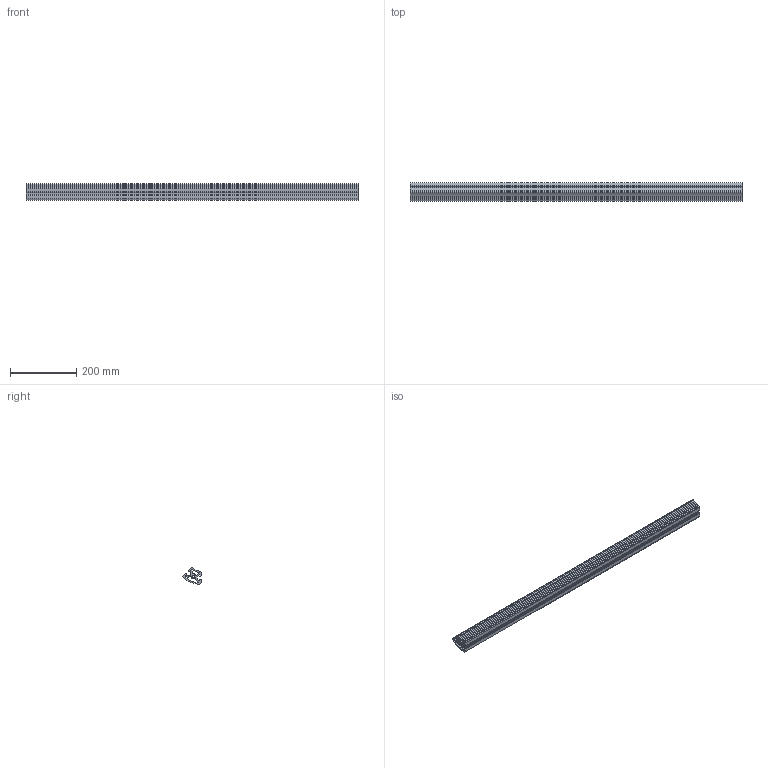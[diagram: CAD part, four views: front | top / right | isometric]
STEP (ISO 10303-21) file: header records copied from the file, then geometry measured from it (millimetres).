
FILE_DESCRIPTION (( 'STEP AP203' ), '1' );
FILE_NAME ('10434_PRO_40x80x45.STEP', '2016-03-02T07:01:28', ( '' ), ( '' ), 'SwSTEP 2.0', 'SolidWorks 2015', '' );
FILE_SCHEMA (( 'CONFIG_CONTROL_DESIGN' ));
Length unit declared in the file: millimetre
Products named in the file (1): 10434_PRO_40x80x45
Bounding box: 1000 x 54.84 x 50.07 mm (x, y, z)
Volume: 1002805.7 mm3; surface area: 429255.9 mm2
Topology: 1 solids, 1 shells, 129 faces, 381 edges, 254 vertices
Faces by surface type: plane 124, cylinder 5
Entity records: 4314 total; most frequent: CARTESIAN_POINT 765, ORIENTED_EDGE 762, DIRECTION 651, EDGE_CURVE 381, VECTOR 371, LINE 371, VERTEX_POINT 254, AXIS2_PLACEMENT_3D 140
